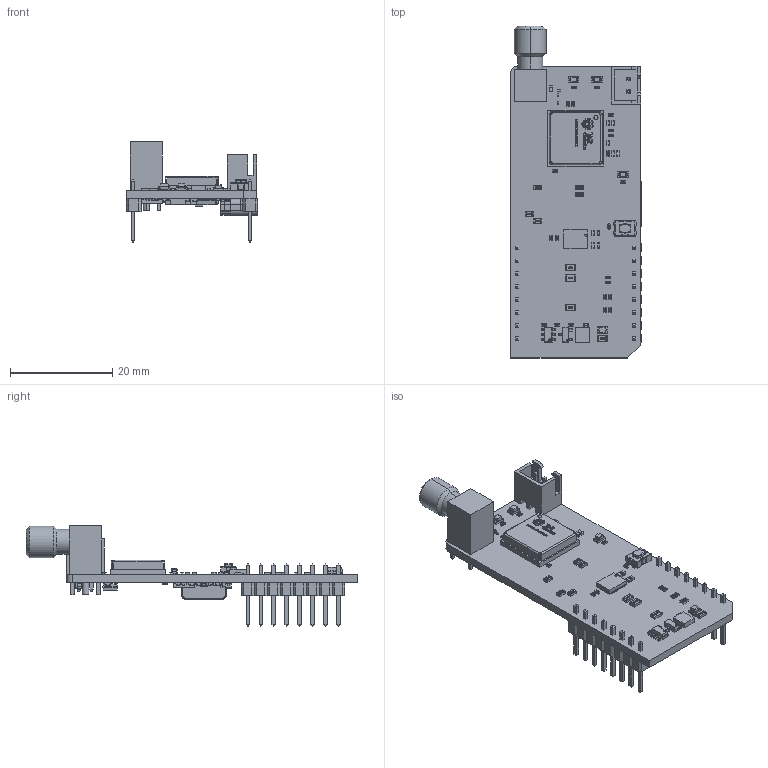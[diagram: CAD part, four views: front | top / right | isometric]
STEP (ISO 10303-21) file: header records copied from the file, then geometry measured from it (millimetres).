
FILE_DESCRIPTION(('Open CASCADE Model'),'2;1');
FILE_NAME('Open CASCADE Shape Model','2026-05-11T10:27:02',('Author'),( 'Open CASCADE'),'Open CASCADE STEP processor 7.5','Open CASCADE 7.5' ,'Unknown');
FILE_SCHEMA(('AUTOMOTIVE_DESIGN { 1 0 10303 214 1 1 1 1 }'));
Length unit declared in the file: millimetre
Products named in the file (196): PCB; Board; Open CASCADE STEP translator 7.5 3.1.1; U2; User Library-SOT23-6-2; U1; 9597454208; Extruded; Q1; SOT23-3; R4; User Library-R_0402; C1; User Library-SMD CAPACITOR0402; R2; JP1; User Library-R_0805; LD1; led_0805_green; R1; R3; MBD1; Header 1x8; Free-Models; 1240637040; User_Library-PinHeaderX5-1_PinHeaderX5_Body_1; User_Library-PinHeaderX5-1_PinHeaderX5_Pins_1; C2; C3; C16; C17; User Library-SMD CAPACITOR0805; C18; C19; C20; C21; DZ1; User Library-SOD323-1; FB1; User Library-ind_0805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
Assembly tree (306 placements, depth 10):
  PCB
    Board
      Open CASCADE STEP translator 7.5 3.1.1
    U2
      User Library-SOT23-6-2
    U1
      9597454208
        Extruded
    Q1
      SOT23-3
    R4
      User Library-R_0402
    C1
      User Library-SMD CAPACITOR0402
    R2
      User Library-R_0402
    JP1
      User Library-R_0805
    LD1
      led_0805_green
    R1
      User Library-R_0805
    R3
      User Library-R_0402
    MBD1
      Header 1x8  x2
        PCB
          Free-Models
            1240637040  x2
              User_Library-PinHeaderX5-1_PinHeaderX5_Body_1
              User_Library-PinHeaderX5-1_PinHeaderX5_Pins_1
    C2
      User Library-SMD CAPACITOR0402
    C3
      User Library-SMD CAPACITOR0402
    C16
      User Library-SMD CAPACITOR0402
    C17
      User Library-SMD CAPACITOR0805
    C18
      User Library-SMD CAPACITOR0805
    C19
      User Library-SMD CAPACITOR0805
    C20
      User Library-SMD CAPACITOR0402
    C21
      User Library-SMD CAPACITOR0402
    DZ1
      User Library-SOD323-1
    FB1
      User Library-ind_0805
    JP2
      User Library-R_0603
    JP3
      User Library-R_0603
    JP4
      User Library-R_0805
    JP5
      User Library-R_0603
    JP6
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Bounding box: 25.78 x 64.97 x 19.66 mm (x, y, z)
Volume: 3976.1 mm3; surface area: 7668.9 mm2
Topology: 411 solids, 412 shells, 11302 faces, 28150 edges, 17929 vertices
Faces by surface type: plane 6925, bspline 2809, cylinder 1204, sphere 344, cone 10, torus 10
Full cylindrical faces by diameter (mm): 0.4 x1, 0.6 x2
Entity records: 184836 total; most frequent: CARTESIAN_POINT 64745, ORIENTED_EDGE 21732, DIRECTION 17235, EDGE_CURVE 10867, LINE 7677, VECTOR 7677, VERTEX_POINT 7061, AXIS2_PLACEMENT_3D 4779
